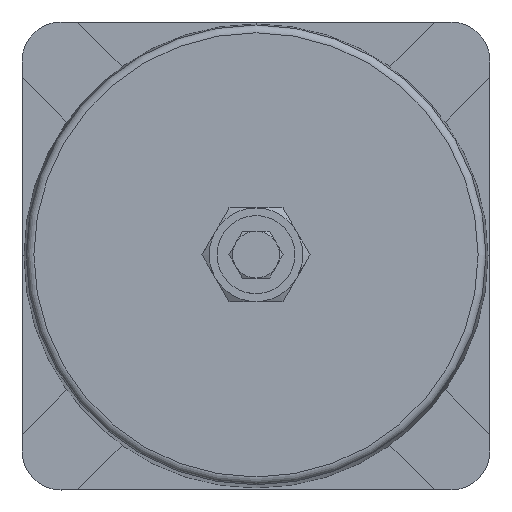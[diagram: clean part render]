
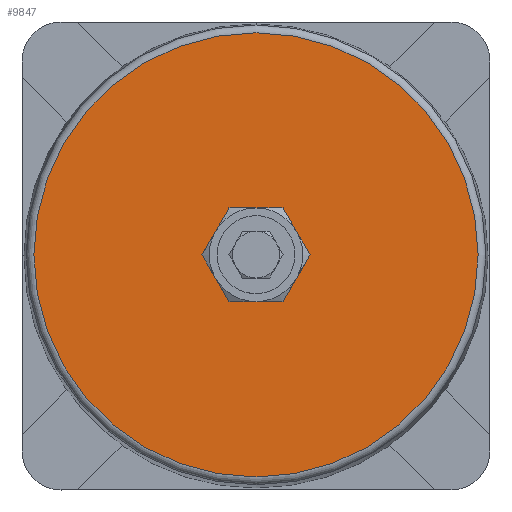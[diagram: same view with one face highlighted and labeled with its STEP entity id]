
A CAD part, top view. The second image highlights one B-rep face of the part: STEP entity #9847.
In plain terms, the highlighted planar face has unit normal (0, 0, 1).
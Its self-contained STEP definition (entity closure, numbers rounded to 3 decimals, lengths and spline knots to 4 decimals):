
#1603=FACE_BOUND('',#2538,.T.);
#1668=CIRCLE('',#10579,3.5599);
#1670=CIRCLE('',#10583,0.4375);
#1834=FACE_OUTER_BOUND('',#2537,.T.);
#2537=EDGE_LOOP('',(#6371));
#2538=EDGE_LOOP('',(#6372));
#3881=VERTEX_POINT('',#12128);
#3883=VERTEX_POINT('',#12134);
#4752=EDGE_CURVE('',#3881,#3881,#1668,.T.);
#4754=EDGE_CURVE('',#3883,#3883,#1670,.T.);
#6371=ORIENTED_EDGE('',*,*,#4752,.F.);
#6372=ORIENTED_EDGE('',*,*,#4754,.F.);
#8991=PLANE('',#10582);
#9847=ADVANCED_FACE('',(#1834,#1603),#8991,.T.);
#10579=AXIS2_PLACEMENT_3D('',#12129,#11099,#11100);
#10582=AXIS2_PLACEMENT_3D('',#12133,#11105,#11106);
#10583=AXIS2_PLACEMENT_3D('',#12135,#11107,#11108);
#11099=DIRECTION('center_axis',(0.,0.,
-1.));
#11100=DIRECTION('ref_axis',(-1.,0.,0.));
#11105=DIRECTION('center_axis',(0.,0.,
1.));
#11106=DIRECTION('ref_axis',(1.,0.,0.));
#11107=DIRECTION('center_axis',(0.,0.,
1.));
#11108=DIRECTION('ref_axis',(1.,0.,0.));
#12128=CARTESIAN_POINT('',(3.5599,0.,10.625));
#12129=CARTESIAN_POINT('Origin',(0.,0.,
10.625));
#12133=CARTESIAN_POINT('Origin',(2.0625,0.,10.625));
#12134=CARTESIAN_POINT('',(0.4375,0.,10.625));
#12135=CARTESIAN_POINT('Origin',(0.,0.,
10.625));
